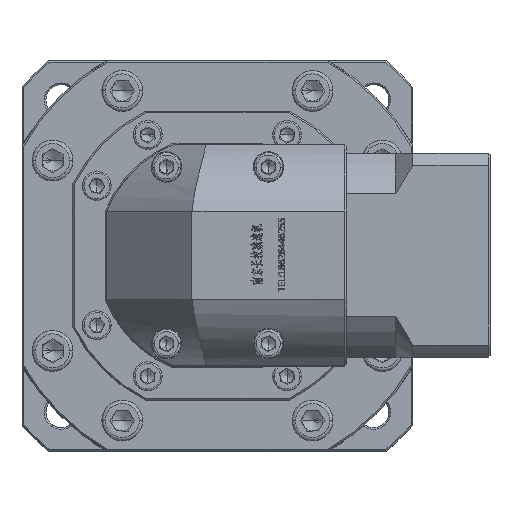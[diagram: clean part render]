
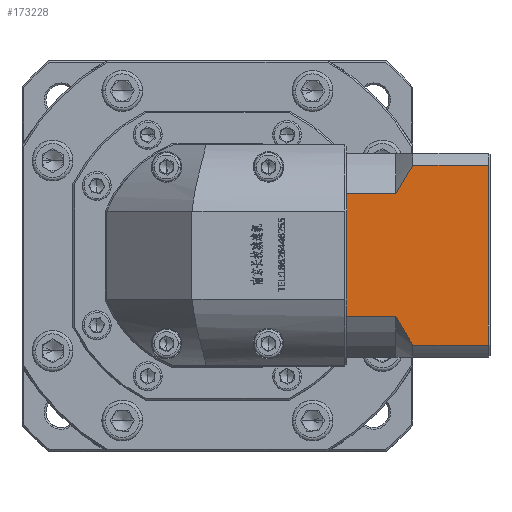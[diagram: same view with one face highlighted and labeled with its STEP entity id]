
A CAD part, top view. The second image highlights one B-rep face of the part: STEP entity #173228.
In plain terms, the highlighted planar face has unit normal (0, 0, 1).
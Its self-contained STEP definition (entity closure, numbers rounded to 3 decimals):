
#1443 = CARTESIAN_POINT ( 'NONE',  ( 90.281, 56.519, 318.152 ) ) ;
#1507 = VECTOR ( 'NONE', #40847, 1000. ) ;
#1892 = EDGE_CURVE ( 'NONE', #50535, #103007, #47459, .T. ) ;
#3904 = LINE ( 'NONE', #40126, #106965 ) ;
#4411 = EDGE_CURVE ( 'NONE', #155413, #28900, #5908, .T. ) ;
#5908 = LINE ( 'NONE', #152996, #1507 ) ;
#5992 = DIRECTION ( 'NONE',  ( -1., 0., 0. ) ) ;
#6333 = CARTESIAN_POINT ( 'NONE',  ( 64.632, 9.152, 318.152 ) ) ;
#6661 = DIRECTION ( 'NONE',  ( 0., 1., 0. ) ) ;
#8076 = B_SPLINE_CURVE_WITH_KNOTS ( 'NONE', 3,
 ( #48717, #118449, #6333, #146733, #62796, #160842 ),
 .UNSPECIFIED., .F., .F.,
 ( 4, 2, 4 ),
 ( 0.1, 0.104, 0.109 ),
 .UNSPECIFIED. ) ;
#11061 = ORIENTED_EDGE ( 'NONE', *, *, #1892, .F. ) ;
#12797 = ORIENTED_EDGE ( 'NONE', *, *, #38367, .F. ) ;
#14608 = EDGE_CURVE ( 'NONE', #25799, #103007, #8076, .T. ) ;
#16802 = CARTESIAN_POINT ( 'NONE',  ( 48.581, 60.061, 318.152 ) ) ;
#17096 = CARTESIAN_POINT ( 'NONE',  ( 63.081, 56.519, 318.152 ) ) ;
#19038 = ORIENTED_EDGE ( 'NONE', *, *, #135651, .T. ) ;
#20328 = CARTESIAN_POINT ( 'NONE',  ( 66.309, 53.78, 318.152 ) ) ;
#21192 = VERTEX_POINT ( 'NONE', #30365 ) ;
#21992 = CARTESIAN_POINT ( 'NONE',  ( 68.081, 56.519, 318.152 ) ) ;
#25799 = VERTEX_POINT ( 'NONE', #68349 ) ;
#28900 = VERTEX_POINT ( 'NONE', #153769 ) ;
#29433 = LINE ( 'NONE', #16802, #99590 ) ;
#30365 = CARTESIAN_POINT ( 'NONE',  ( 48.581, 13.024, 318.152 ) ) ;
#34447 = CARTESIAN_POINT ( 'NONE',  ( 67.182, 55.159, 318.152 ) ) ;
#38089 = CARTESIAN_POINT ( 'NONE',  ( 48.581, 48.089, 318.152 ) ) ;
#38367 = EDGE_CURVE ( 'NONE', #152072, #135500, #147202, .T. ) ;
#40126 = CARTESIAN_POINT ( 'NONE',  ( 63.081, 48.089, 318.152 ) ) ;
#40847 = DIRECTION ( 'NONE',  ( 0., -1., 0. ) ) ;
#44717 = EDGE_CURVE ( 'NONE', #155413, #81658, #3904, .T. ) ;
#47459 = LINE ( 'NONE', #89922, #121934 ) ;
#47831 = ORIENTED_EDGE ( 'NONE', *, *, #57910, .T. ) ;
#48717 = CARTESIAN_POINT ( 'NONE',  ( 63.081, 12.033, 318.152 ) ) ;
#49880 = EDGE_CURVE ( 'NONE', #152072, #81658, #170336, .T. ) ;
#50535 = VERTEX_POINT ( 'NONE', #156263 ) ;
#50712 = CARTESIAN_POINT ( 'NONE',  ( 90.781, 60.061, 318.152 ) ) ;
#57005 = FACE_OUTER_BOUND ( 'NONE', #108373, .T. ) ;
#57910 = EDGE_CURVE ( 'NONE', #21192, #157915, #92519, .T. ) ;
#58935 = ORIENTED_EDGE ( 'NONE', *, *, #4411, .T. ) ;
#60977 = CARTESIAN_POINT ( 'NONE',  ( 48.581, 60.061, 318.152 ) ) ;
#62677 = CARTESIAN_POINT ( 'NONE',  ( 68.081, 56.519, 318.152 ) ) ;
#62686 = CARTESIAN_POINT ( 'NONE',  ( 63.081, 12.033, 318.152 ) ) ;
#62796 = CARTESIAN_POINT ( 'NONE',  ( 67.18, 4.966, 318.152 ) ) ;
#63424 = ORIENTED_EDGE ( 'NONE', *, *, #97338, .T. ) ;
#64158 = PLANE ( 'NONE',  #153666 ) ;
#64754 = DIRECTION ( 'NONE',  ( 1., 0., 0. ) ) ;
#68349 = CARTESIAN_POINT ( 'NONE',  ( 63.081, 12.033, 318.152 ) ) ;
#74989 = DIRECTION ( 'NONE',  ( 0., -1., 0. ) ) ;
#76704 = CARTESIAN_POINT ( 'NONE',  ( 63.829, 49.541, 318.152 ) ) ;
#81658 = VERTEX_POINT ( 'NONE', #154614 ) ;
#83009 = EDGE_CURVE ( 'NONE', #25799, #157915, #122960, .T. ) ;
#89922 = CARTESIAN_POINT ( 'NONE',  ( 63.081, 3.604, 318.152 ) ) ;
#92519 = LINE ( 'NONE', #60977, #162725 ) ;
#93076 = CARTESIAN_POINT ( 'NONE',  ( 90.281, 60.061, 318.152 ) ) ;
#96442 = DIRECTION ( 'NONE',  ( 1., 0., 0. ) ) ;
#97338 = EDGE_CURVE ( 'NONE', #50535, #135500, #106064, .T. ) ;
#99590 = VECTOR ( 'NONE', #157157, 1000. ) ;
#101004 = DIRECTION ( 'NONE',  ( 1., 0., 0. ) ) ;
#103007 = VERTEX_POINT ( 'NONE', #152281 ) ;
#106064 = LINE ( 'NONE', #93076, #180700 ) ;
#106965 = VECTOR ( 'NONE', #96442, 1000. ) ;
#108373 = EDGE_LOOP ( 'NONE', ( #11061, #63424, #12797, #141396, #120685, #58935, #19038, #47831, #170948, #153713 ) ) ;
#118449 = CARTESIAN_POINT ( 'NONE',  ( 63.832, 10.577, 318.152 ) ) ;
#118490 = VECTOR ( 'NONE', #146612, 1000. ) ;
#120685 = ORIENTED_EDGE ( 'NONE', *, *, #44717, .F. ) ;
#121934 = VECTOR ( 'NONE', #5992, 1000. ) ;
#122960 = LINE ( 'NONE', #62686, #118490 ) ;
#135500 = VERTEX_POINT ( 'NONE', #1443 ) ;
#135651 = EDGE_CURVE ( 'NONE', #28900, #21192, #29433, .T. ) ;
#141396 = ORIENTED_EDGE ( 'NONE', *, *, #49880, .T. ) ;
#142761 = VECTOR ( 'NONE', #101004, 1000. ) ;
#146612 = DIRECTION ( 'NONE',  ( -1., 0., 0. ) ) ;
#146733 = CARTESIAN_POINT ( 'NONE',  ( 66.306, 6.346, 318.152 ) ) ;
#147202 = LINE ( 'NONE', #17096, #142761 ) ;
#148732 = DIRECTION ( 'NONE',  ( 0., 0., -1. ) ) ;
#152072 = VERTEX_POINT ( 'NONE', #21992 ) ;
#152281 = CARTESIAN_POINT ( 'NONE',  ( 68.081, 3.604, 318.152 ) ) ;
#152996 = CARTESIAN_POINT ( 'NONE',  ( 48.581, 60.061, 318.152 ) ) ;
#153666 = AXIS2_PLACEMENT_3D ( 'NONE', #50712, #148732, #64754 ) ;
#153713 = ORIENTED_EDGE ( 'NONE', *, *, #14608, .T. ) ;
#153769 = CARTESIAN_POINT ( 'NONE',  ( 48.581, 47.098, 318.152 ) ) ;
#154614 = CARTESIAN_POINT ( 'NONE',  ( 63.081, 48.089, 318.152 ) ) ;
#155413 = VERTEX_POINT ( 'NONE', #38089 ) ;
#156263 = CARTESIAN_POINT ( 'NONE',  ( 90.281, 3.604, 318.152 ) ) ;
#157157 = DIRECTION ( 'NONE',  ( 0., -1., 0. ) ) ;
#157915 = VERTEX_POINT ( 'NONE', #172189 ) ;
#160712 = CARTESIAN_POINT ( 'NONE',  ( 64.633, 50.972, 318.152 ) ) ;
#160842 = CARTESIAN_POINT ( 'NONE',  ( 68.081, 3.604, 318.152 ) ) ;
#162725 = VECTOR ( 'NONE', #74989, 1000. ) ;
#170336 = B_SPLINE_CURVE_WITH_KNOTS ( 'NONE', 3,
 ( #62677, #34447, #20328, #160712, #76704, #174739 ),
 .UNSPECIFIED., .F., .F.,
 ( 4, 2, 4 ),
 ( 0.052, 0.057, 0.062 ),
 .UNSPECIFIED. ) ;
#170948 = ORIENTED_EDGE ( 'NONE', *, *, #83009, .F. ) ;
#172189 = CARTESIAN_POINT ( 'NONE',  ( 48.581, 12.033, 318.152 ) ) ;
#173228 = ADVANCED_FACE ( 'NONE', ( #57005 ), #64158, .F. ) ;
#174739 = CARTESIAN_POINT ( 'NONE',  ( 63.081, 48.089, 318.152 ) ) ;
#180700 = VECTOR ( 'NONE', #6661, 1000. ) ;
